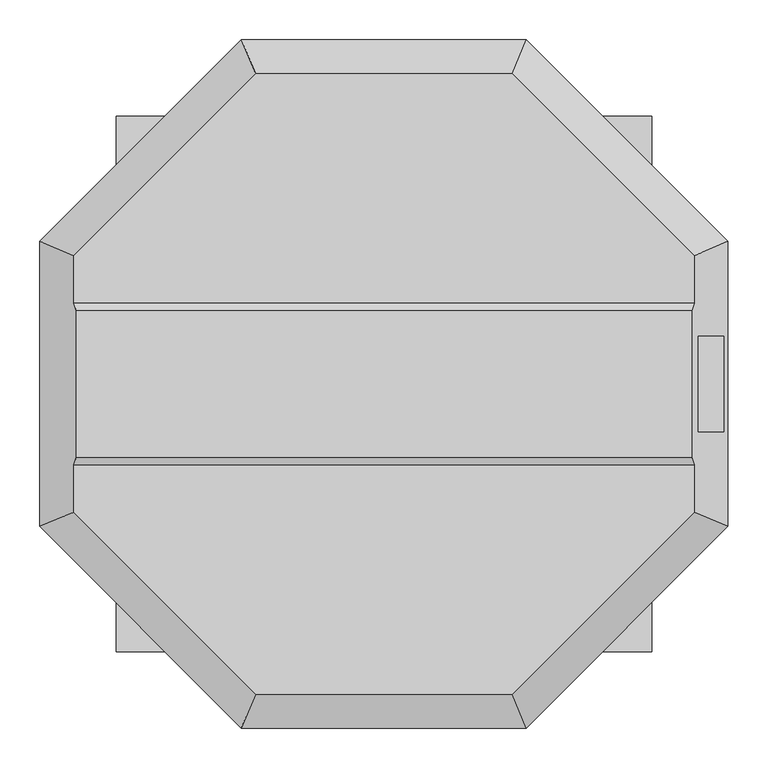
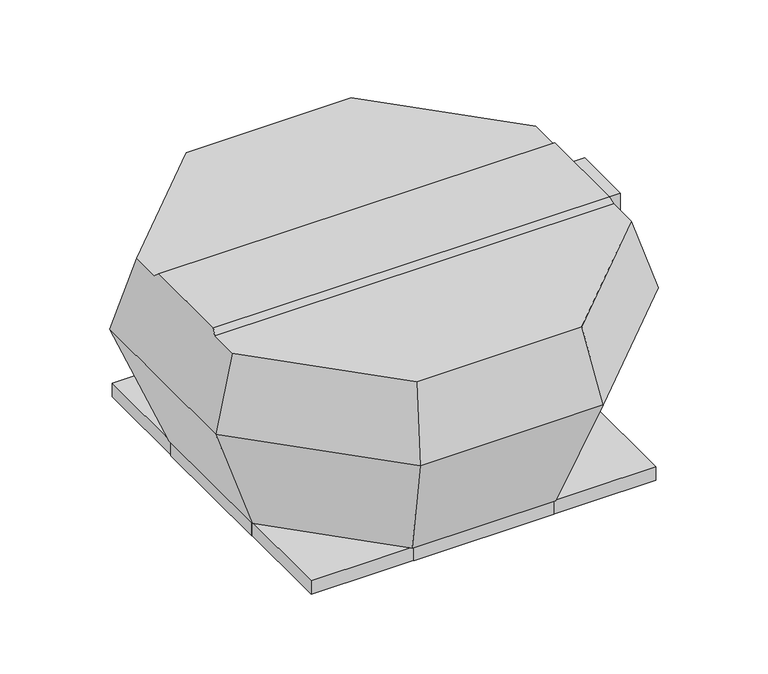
"""IFC4 building model written with IfcOpenShell, lengths in millimetres: unitary equipment geometry, VE-Wentylator-ParaForma-Harmann-VIVER_PS-Wywiewny : 4-500/7600T."""

from ifc_helpers import new_model, si_unit, point, frame, frame_2d, origin, place, context, project, spatial, polyline, circle_curve, ellipse_curve, trimmed, segment, composite_curve, outline, extrude, faceted_brep, source, transform, mapped, element, save
from ifc_brep_helpers import plane_surface, revolved_surface, advanced_brep


def unitary_equipment_75d93c66(model_context):
    return source(origin(), model_context, "Body", "SolidModel", [
        advanced_brep(
        [(385.1033363, -91.75, 391.6), (385.1033363, 91.75, 391.6), (-385.1033363, 91.75, 391.6), (-385.1033363, -91.75, 391.6), (387.9641195, 101.2, 382.1), (-387.9641195, 101.2, 382.1), (387.9641195, -101.2, 382.1), (-387.9641195, -101.2, 382.1), (160.7, -387.9641195, 382.1), (387.9641195, -160.7, 382.1), (-387.9641195, -160.7, 382.1), (-160.7, -387.9641195, 382.1), (387.9641195, 160.7, 382.1), (160.7, 387.9641195, 382.1), (-160.7, 387.9641195, 382.1), (-387.9641195, 160.7, 382.1), (178.3, -430.4542782, 241.0), (430.4542782, -178.3, 241.0), (430.4542782, 178.3, 241.0), (425.2, -60.0, 258.4482438), (392.9629617, -60.0, 365.5), (392.9629617, 60.0, 365.5), (425.2, 60.0, 258.4482438), (418.4691023, 0.0, 280.8), (399.7987278, 0.0, 342.8), (178.3, 430.4542782, 241.0), (-178.3, 430.4542782, 241.0), (-430.4542782, 178.3, 241.0), (-430.4542782, -178.3, 241.0), (-178.3, -430.4542782, 241.0), (425.2, -60.0, 365.5), (425.2, 60.0, 365.5), (425.2, 0.0, 342.8), (425.2, 0.0, 280.8), (139.7, -337.2656347, 1.5), (-139.7, -337.2656347, 1.5), (-337.2656347, -139.7, 1.5), (-337.2656347, 139.7, 1.5), (-139.7, 337.2656347, 1.5), (139.7, 337.2656347, 1.5), (337.2656347, 139.7, 1.5), (337.2656347, -139.7, 1.5)],
        [
            (0, 1),
            (1, 2),
            (2, 3),
            (3, 0),
            (1, 4),
            (4, 5),
            (5, 2),
            (6, 0),
            (3, 7),
            (7, 6),
            (8, 9),
            (9, 6),
            (7, 10),
            (10, 11),
            (11, 8),
            (12, 13),
            (13, 14),
            (14, 15),
            (15, 5),
            (4, 12),
            (8, 16),
            (16, 17),
            (17, 9),
            (17, 18),
            (18, 12),
            (19, 20),
            (20, 21),
            (21, 22),
            (22, 19),
            (23, 24, ellipse_curve(frame((409.1339151, 0.0, 311.8), z_axis=(0.9575266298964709, 0.0, 0.28834485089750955), x_axis=(-0.2883448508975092, 0.0, 0.9575266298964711)), 32.3750787, 31.0)),
            (24, 23, ellipse_curve(frame((409.1339151, 0.0, 311.8), z_axis=(0.9575266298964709, 0.0, 0.28834485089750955), x_axis=(-0.2883448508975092, 0.0, 0.9575266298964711)), 32.3750787, 31.0)),
            (18, 25),
            (25, 13),
            (25, 26),
            (26, 14),
            (26, 27),
            (27, 15),
            (27, 28),
            (28, 10),
            (28, 29),
            (29, 11),
            (29, 16),
            (19, 30),
            (30, 20),
            (31, 22),
            (21, 31),
            (31, 30),
            (32, 33, circle_curve(frame((425.2, 0.0, 311.8), z_axis=(-1.0, 0.0, 0.0), x_axis=(0.0, 0.0, -1.0)), 31.0)),
            (33, 32, circle_curve(frame((425.2, 0.0, 311.8), z_axis=(-1.0, 0.0, 0.0), x_axis=(0.0, 0.0, -1.0)), 31.0)),
            (34, 35),
            (35, 36),
            (36, 37),
            (37, 38),
            (38, 39),
            (39, 40),
            (40, 41),
            (41, 34),
            (41, 17),
            (16, 34),
            (40, 18),
            (39, 25),
            (38, 26),
            (37, 27),
            (36, 28),
            (35, 29),
            (32, 24),
            (23, 33),
        ],
        [
            plane_surface(frame((0.0, 0.0, 391.6), z_axis=(0.0, 0.0, 1.0), x_axis=(0.0, 1.0, 0.0))),
            plane_surface(frame((0.0, 101.2, 382.1), z_axis=(0.0, 0.7089700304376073, 0.7052386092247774), x_axis=(-1.0, 0.0, 0.0))),
            plane_surface(frame((0.0, -101.2, 382.1), z_axis=(0.0, -0.7089700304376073, 0.7052386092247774), x_axis=(1.0, 0.0, 0.0))),
            plane_surface(frame((0.0, 0.0, 382.1), z_axis=(0.0, 0.0, 1.0000000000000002), x_axis=(0.7071067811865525, 0.7071067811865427, 0.0))),
            plane_surface(frame((304.3771391, -304.3771391, 241.0), z_axis=(0.6770735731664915, -0.6770735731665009, 0.2883448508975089), x_axis=(0.7071067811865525, 0.7071067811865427, 0.0))),
            plane_surface(frame((430.4542782, 0.0, 241.0), z_axis=(0.9575266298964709, 0.0, 0.28834485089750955), x_axis=(0.0, 1.0, 0.0))),
            plane_surface(frame((304.3771391, 304.3771391, 241.0), z_axis=(0.6770735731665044, 0.6770735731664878, 0.28834485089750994), x_axis=(-0.7071067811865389, 0.7071067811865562, 0.0))),
            plane_surface(frame((0.0, 430.4542782, 241.0), z_axis=(0.0, 0.9575266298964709, 0.28834485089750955), x_axis=(-1.0, 0.0, 0.0))),
            plane_surface(frame((-304.3771391, 304.3771391, 241.0), z_axis=(-0.6770735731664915, 0.6770735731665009, 0.28834485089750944), x_axis=(-0.7071067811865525, -0.7071067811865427, 0.0))),
            plane_surface(frame((-430.4542782, 0.0, 241.0), z_axis=(-0.9575266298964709, 0.0, 0.28834485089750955), x_axis=(0.0, -1.0, 0.0))),
            plane_surface(frame((-304.3771391, -304.3771391, 241.0), z_axis=(-0.6770735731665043, -0.6770735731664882, 0.2883448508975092), x_axis=(0.7071067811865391, -0.707106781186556, 0.0))),
            plane_surface(frame((0.0, -430.4542782, 241.0), z_axis=(0.0, -0.9575266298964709, 0.28834485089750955), x_axis=(1.0, 0.0, 0.0))),
            plane_surface(frame((0.0, -60.0, 0.0), z_axis=(0.0, -1.0, 0.0), x_axis=(0.0, 0.0, 1.0))),
            plane_surface(frame((0.0, 60.0, 0.0), z_axis=(0.0, 1.0, 0.0), x_axis=(0.0, 0.0, 1.0))),
            plane_surface(frame((425.2, -60.0, 278.1), z_axis=(1.0, 0.0, 0.0), x_axis=(0.0, 1.0, 0.0))),
            plane_surface(frame((425.2, -60.0, 365.5), z_axis=(0.0, 0.0, 1.0), x_axis=(0.0, 1.0, 0.0))),
            plane_surface(frame((0.0, 0.0, 1.5), z_axis=(0.0, 0.0, -1.0), x_axis=(0.7071067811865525, 0.7071067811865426, 0.0))),
            plane_surface(frame((238.4828173, -238.4828173, 1.5), z_axis=(0.6589805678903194, -0.6589805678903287, -0.3626144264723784), x_axis=(0.7071067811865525, 0.7071067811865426, 0.0))),
            plane_surface(frame((337.2656347, 0.0, 1.5), z_axis=(0.9319392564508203, 0.0, -0.36261442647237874), x_axis=(0.0, 1.0, 0.0))),
            plane_surface(frame((238.4828173, 238.4828173, 1.5), z_axis=(0.6589805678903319, 0.6589805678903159, -0.3626144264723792), x_axis=(-0.7071067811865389, 0.7071067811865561, 0.0))),
            plane_surface(frame((0.0, 337.2656347, 1.5), z_axis=(0.0, 0.9319392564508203, -0.36261442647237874), x_axis=(-1.0, 0.0, 0.0))),
            plane_surface(frame((-238.4828173, 238.4828173, 1.5), z_axis=(-0.6589805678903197, 0.6589805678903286, -0.3626144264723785), x_axis=(-0.7071067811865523, -0.7071067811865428, 0.0))),
            plane_surface(frame((-337.2656347, 0.0, 1.5), z_axis=(-0.9319392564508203, 0.0, -0.36261442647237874), x_axis=(0.0, -1.0, 0.0))),
            plane_surface(frame((-238.4828173, -238.4828173, 1.5), z_axis=(-0.6589805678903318, -0.6589805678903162, -0.3626144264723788), x_axis=(0.7071067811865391, -0.7071067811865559, 0.0))),
            plane_surface(frame((0.0, -337.2656347, 1.5), z_axis=(0.0, -0.9319392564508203, -0.36261442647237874), x_axis=(1.0, 0.0, 0.0))),
            revolved_surface(polyline([(399.7987278, 0.0, 280.8), (425.2, 0.0, 280.8)]), (0.0, 0.0, 311.8), (-1.0, 0.0, 0.0)),
        ],
        [
            (0, [[1, 2, 3, 4]]),
            (1, [[5, 6, 7, -2]]),
            (2, [[8, -4, 9, 10]]),
            (3, [[11, 12, -10, 13, 14, 15]]),
            (3, [[16, 17, 18, 19, -6, 20]]),
            (4, [[-11, 21, 22, 23]]),
            (5, [[-23, 24, 25, -20, -5, -1, -8, -12], [26, 27, 28, 29]]),
            (5, [[30, 31]]),
            (6, [[-16, -25, 32, 33]]),
            (7, [[-17, -33, 34, 35]]),
            (8, [[-18, -35, 36, 37]]),
            (9, [[-37, 38, 39, -13, -9, -3, -7, -19]]),
            (10, [[-14, -39, 40, 41]]),
            (11, [[-15, -41, 42, -21]]),
            (12, [[43, 44, -26]]),
            (13, [[45, -28, 46]]),
            (14, [[47, -43, -29, -45], [48, 49]]),
            (15, [[-47, -46, -27, -44]]),
            (16, [[50, 51, 52, 53, 54, 55, 56, 57]]),
            (17, [[-57, 58, -22, 59]]),
            (18, [[-56, 60, -24, -58]]),
            (19, [[-55, 61, -32, -60]]),
            (20, [[-54, 62, -34, -61]]),
            (21, [[-53, 63, -36, -62]]),
            (22, [[-52, 64, -38, -63]]),
            (23, [[-51, 65, -40, -64]]),
            (24, [[-50, -59, -42, -65]]),
            (25, [[-48, 66, -30, 67]]),
            (25, [[-49, -67, -31, -66]]),
        ],
    ),
        faceted_brep([(333.4, 333.4, -26.5), (333.4, 333.4, 0.0), (-333.4, 333.4, 0.0), (-333.4, 333.4, -26.5), (334.9, 334.9, 1.5), (334.9, 334.9, -26.5), (-334.9, 334.9, -26.5), (-334.9, 334.9, 1.5), (-333.4, -333.4, 0.0), (-333.4, -333.4, -26.5), (-334.9, -334.9, -26.5), (-334.9, -334.9, 1.5), (333.4, -333.4, 0.0), (333.4, -333.4, -26.5), (334.9, -334.9, -26.5), (334.9, -334.9, 1.5)], [[[0, 1, 2, 3]], [[4, 5, 6, 7]], [[3, 2, 8, 9]], [[7, 6, 10, 11]], [[9, 8, 12, 13]], [[11, 10, 14, 15]], [[13, 12, 1, 0]], [[5, 14, 10, 6], [3, 9, 13, 0]], [[15, 14, 5, 4]], [[7, 11, 15, 4]], [[1, 12, 8, 2]]]),
        extrude(outline(composite_curve([segment(trimmed(circle_curve(frame_2d((0.0, 311.8)), 31.0), [point((0.0, 342.8))], [point((0.0, 280.8))], False, "CARTESIAN"), True, "CONTINUOUS"), segment(trimmed(circle_curve(frame_2d((0.0, 311.8)), 31.0), [point((0.0, 280.8))], [point((0.0, 342.8))], False, "CARTESIAN"), True, "CONTINUOUS")], self_intersect=False)), frame((415.2, 0.0, 0.0), z_axis=(1.0, 0.0, 0.0), x_axis=(0.0, 1.0, 0.0)), (0.0, 0.0, 1.0), 10.0),
        faceted_brep([(-334.9, -136.1, -26.6), (-335.9, -136.1, -26.6), (-335.9, 136.1, -26.6), (-334.9, 136.1, -26.6), (-334.9, -136.1, 1.5), (-334.9, 136.1, 1.5), (-335.9, 136.1, 1.5), (-335.9, -136.1, 1.5)], [[[0, 1, 2, 3]], [[4, 5, 6, 7]], [[1, 0, 4, 7]], [[2, 1, 7, 6]], [[3, 2, 6, 5]], [[0, 3, 5, 4]]]),
        faceted_brep([(335.9, -136.1, -26.6), (334.9, -136.1, -26.6), (334.9, 136.1, -26.6), (335.9, 136.1, -26.6), (335.9, 136.1, 1.5), (334.9, 136.1, 1.5), (334.9, -136.1, 1.5), (335.9, -136.1, 1.5), (335.9, -94.8, 1.5), (360.1, -78.2, 1.5), (360.1, 78.2, 1.5), (335.9, 94.8, 1.5), (335.9, 94.8, 0.0), (335.9, -94.8, 0.0), (360.1, 78.2, 0.0), (357.0, 78.2, 0.0), (357.0, -78.2, 0.0), (360.1, -78.2, 0.0), (360.1, -78.2, -21.0), (360.1, 78.2, -21.0), (357.0, -78.2, -21.0), (357.0, 78.2, -21.0)], [[[0, 1, 2, 3]], [[4, 5, 6, 7, 8, 9, 10, 11]], [[1, 0, 7, 6]], [[2, 1, 6, 5]], [[3, 2, 5, 4]], [[0, 3, 4, 11, 12, 13, 8, 7]], [[12, 14, 15, 16, 17, 13]], [[14, 12, 11, 10]], [[10, 9, 17, 18, 19, 14]], [[13, 17, 9, 8]], [[20, 16, 15, 21]], [[16, 20, 18, 17]], [[21, 15, 14, 19]], [[20, 21, 19, 18]]]),
        faceted_brep([(136.1, 334.9, -26.6), (-136.1, 334.9, -26.6), (-136.1, 335.9, -26.6), (136.1, 335.9, -26.6), (136.1, 334.9, 1.5), (136.1, 335.9, 1.5), (-136.1, 335.9, 1.5), (-136.1, 334.9, 1.5)], [[[0, 1, 2, 3]], [[4, 5, 6, 7]], [[1, 0, 4, 7]], [[2, 1, 7, 6]], [[3, 2, 6, 5]], [[0, 3, 5, 4]]]),
        faceted_brep([(136.1, -335.9, -26.6), (-136.1, -335.9, -26.6), (-136.1, -334.9, -26.6), (136.1, -334.9, -26.6), (136.1, -335.9, 1.5), (136.1, -334.9, 1.5), (-136.1, -334.9, 1.5), (-136.1, -335.9, 1.5)], [[[0, 1, 2, 3]], [[4, 5, 6, 7]], [[1, 0, 4, 7]], [[2, 1, 7, 6]], [[3, 2, 6, 5]], [[0, 3, 5, 4]]]),
    ])


if __name__ == "__main__":
    model = new_model("IFC4")
    model_context = context("Model", 3, world=origin())
    ifc_project = project(units=[si_unit("LENGTHUNIT", "METRE", prefix="MILLI")], contexts=[model_context])
    site = spatial("IfcSite", under=ifc_project)
    building = spatial("IfcBuilding", under=site)
    placement = place(None, origin())
    unitary_equipment_shape = unitary_equipment_75d93c66(model_context)
    element("IfcUnitaryEquipment", 1, ObjectType="VE-Wentylator-ParaForma-Harmann-VIVER_PS-Wywiewny : 4-500/7600T", at=placement, inside=building, context=model_context, shape_type="MappedRepresentation", body=[
        mapped(unitary_equipment_shape, transform((0.0, 0.0, 0.0), x_axis=(1.0, 0.0, 0.0), y_axis=(0.0, 1.0, 0.0), z_axis=(0.0, 0.0, 1.0))),
    ])
    save(model, "model.ifc")
